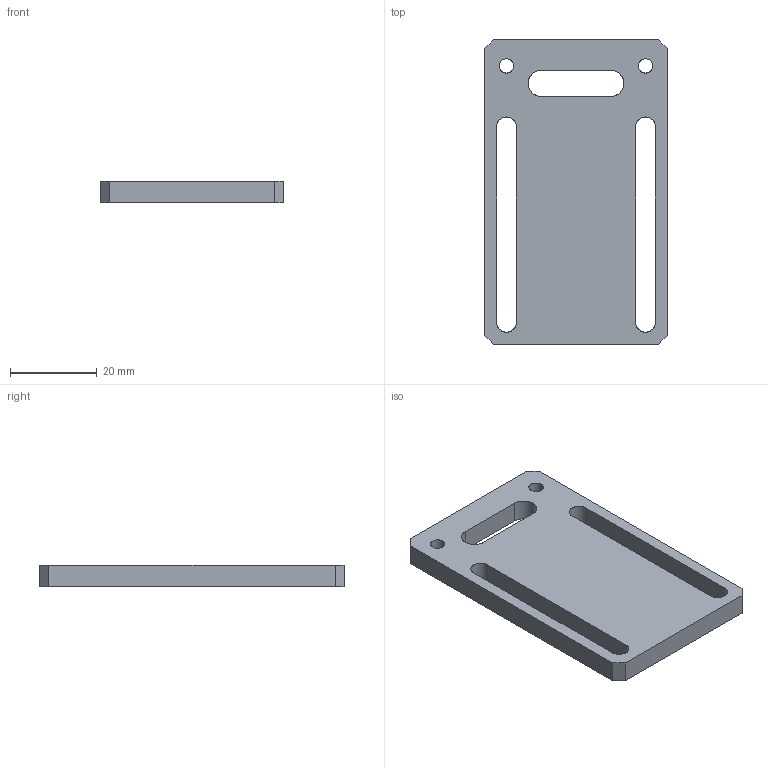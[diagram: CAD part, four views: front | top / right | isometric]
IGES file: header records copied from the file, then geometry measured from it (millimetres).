
Start section: SolidWorks IGES file using analytic representation for surfaces
Global section: file name: E:\2010 カタログ（別冊）\Eins10年4月発売予定新商品データ0311\XL0006-104-0\230071.IGS; native system: SolidWorks 2006 by SolidWorks Corporation; preprocessor: SolidWorks 2006 by SolidWorks Corporation; author: CAD53; date: 100604.152951; units: millimetre
Bounding box: 42 x 70 x 5 mm (x, y, z)
Surface area: 7203.5 mm2 (no closed solid volume)
Topology: 0 solids, 0 shells, 27 faces, 448 edges, 448 vertices
Faces by surface type: bspline 16, revolution 11
